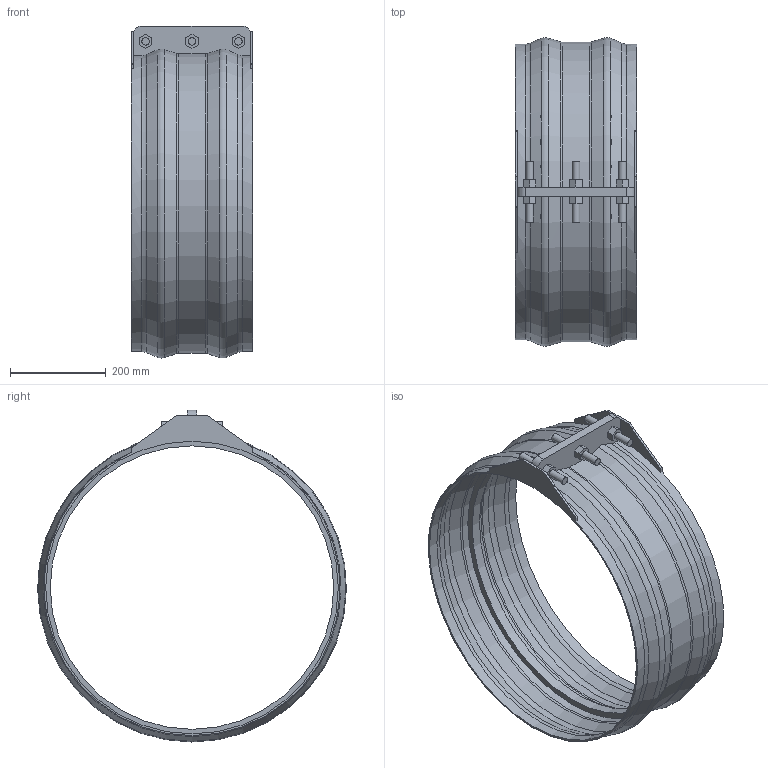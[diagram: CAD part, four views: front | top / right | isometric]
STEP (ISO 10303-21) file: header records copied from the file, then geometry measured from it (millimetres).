
FILE_DESCRIPTION(/* description */ ('VIC SS NON RESTRAINED COUPLING STYLE 229S (FLEX) (BEF)','CAx-IF Rec.Pracs.---Representation and Presentation of Product Manufacturing Information (PMI)---4.0---2014-10-13'),/* implementation_level */ '2;1');
FILE_NAME(/* name */ 'C:\Users\Vjadhav\Desktop\CAD for Inventor\1\229S\STEP\Victaulic_VBSP_Coupling Flexible Non-Restrained_Style 229S (BEF)\Victaulic_VBSP_Coupling Flexible Non-Restrained_Style 229S (BEF)_24 (600).stp',/* time_stamp */ '2021-08-26T18:17:14+06:00',/* author */ ('Vjadhav'),/* organization */ ('Victaulic'),/* preprocessor_version */ 'ST-DEVELOPER v17.2',/* originating_system */ 'Autodesk Inventor 2019',/* authorisation */ '');
FILE_SCHEMA (('AP242_MANAGED_MODEL_BASED_3D_ENGINEERING_MIM_LF { 1 0 10303 442 1 1 4 }'));
Length unit declared in the file: inch
Products named in the file (1): 229S-24.0
Bounding box: 254 x 643.36 x 691.68 mm (x, y, z)
Volume: 2809284.3 mm3; surface area: 1166872.7 mm2
Topology: 1 solids, 1 shells, 111 faces, 301 edges, 206 vertices
Faces by surface type: plane 67, cylinder 24, torus 12, cone 8
Full cylindrical faces by diameter (mm): 15.875 x6, 590.55 x1, 609.6 x2, 615.95 x2
Entity records: 3874 total; most frequent: CARTESIAN_POINT 748, DIRECTION 633, ORIENTED_EDGE 602, EDGE_CURVE 301, AXIS2_PLACEMENT_3D 227, VERTEX_POINT 206, LINE 179, VECTOR 179
